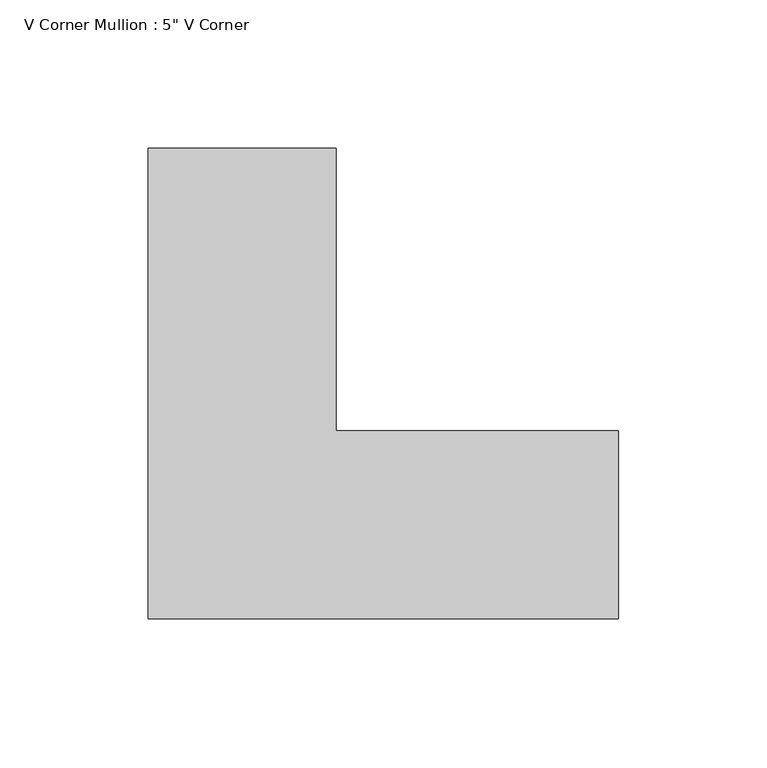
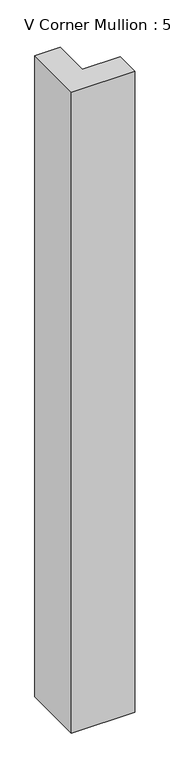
"""IFC4 building model written with IfcOpenShell, lengths in millimetres: member geometry."""

from ifc_helpers import new_model, si_unit, frame, origin, place, context, project, spatial, polyline, outline, extrude, source, transform, mapped, element, save


def member_3f049f35(model_context):
    return source(origin(), model_context, "Body", "SweptSolid", [
        extrude(outline(polyline([(63.5, -95.25), (-95.25, -95.25), (-95.25, 63.5), (-31.75, 63.5), (-31.75, -31.75), (63.5, -31.75), (63.5, -95.25)])), frame((0.0, 0.0, -1698.2022187), z_axis=(0.0, 0.0, 1.0), x_axis=(1.0, 0.0, 0.0)), (0.0, 0.0, 1.0), 1698.2022187),
    ])


if __name__ == "__main__":
    model = new_model("IFC4")
    model_context = context("Model", 3, world=origin())
    ifc_project = project(units=[si_unit("LENGTHUNIT", "METRE", prefix="MILLI")], contexts=[model_context])
    site = spatial("IfcSite", under=ifc_project)
    building = spatial("IfcBuilding", under=site)
    placement = place(None, origin())
    member_shape = member_3f049f35(model_context)
    element("IfcMember", 1, ObjectType="V Corner Mullion : 5\" V Corner", at=placement, inside=building, context=model_context, shape_type="MappedRepresentation", body=[
        mapped(member_shape, transform((0.0, 0.0, 0.0), x_axis=(1.0, 0.0, 0.0), y_axis=(0.0, 1.0, 0.0), z_axis=(0.0, 0.0, 1.0))),
    ])
    save(model, "model.ifc")
